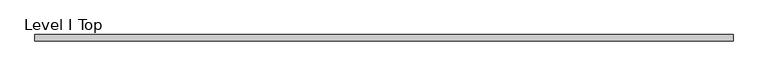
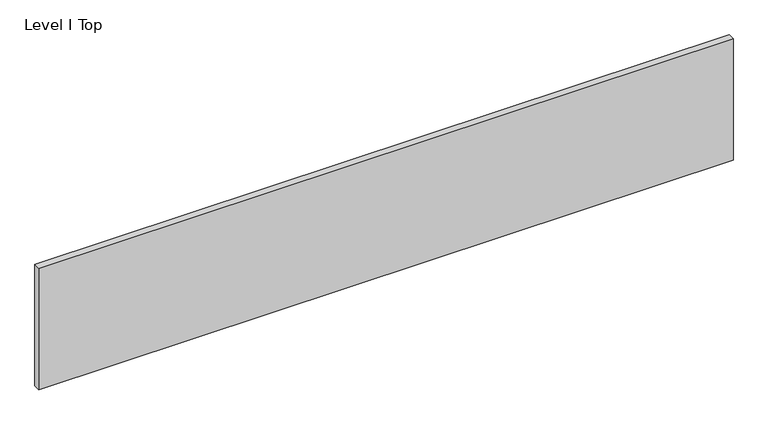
"""IFC4 building model written with IfcOpenShell, lengths in millimetres: proxy geometry, Panel-Fascia-Teknion-Altos-Landscape : Level I Top."""

import ifcopenshell
import ifcopenshell.guid

model = None  # the IFC model being written
_history = None  # IfcOwnerHistory: only IFC2X3 demands one
_inside = {}  # id of a spatial element -> (the spatial element, [elements in it])
_under = {}  # id of a project, library or spatial element -> (it, [spatial elements below it])
_declared = {}  # id of a project -> (the project, [libraries it declares])
_typed = {}  # id of a type object -> (the type object, [elements of that type])
_made_of = {}  # id of a material, layer set ... -> (it, [elements and type objects made of it])


def new_model(schema):
    """Start an empty IFC model of exactly this schema.

    Asked for "IFC4X3", IfcOpenShell would pick the latest addendum, in which some entities
    have other attributes; the version numbers below select the first issue.
    IFC2X3 requires an IfcOwnerHistory on every rooted entity: one is made here for all.
    """
    global model, _history
    if schema == "IFC4X3":
        model = ifcopenshell.file(schema_version=(4, 3, 0, 0))
    else:
        model = ifcopenshell.file(schema=schema)
    _inside.clear()
    _under.clear()
    _declared.clear()
    _typed.clear()
    _made_of.clear()
    _history = None
    if model.schema == "IFC2X3":
        org = make("IfcOrganization", Name="unknown")
        user = make(
            "IfcPersonAndOrganization",
            ThePerson=make("IfcPerson", FamilyName="unknown"),
            TheOrganization=org,
        )
        app = make(
            "IfcApplication",
            ApplicationDeveloper=org,
            Version="unknown",
            ApplicationFullName="unknown",
            ApplicationIdentifier="unknown",
        )
        _history = make(
            "IfcOwnerHistory",
            OwningUser=user,
            OwningApplication=app,
            ChangeAction="ADDED",
            CreationDate=0,
        )
    return model


def make(cls, **values):
    """One entity of the class cls with the attributes given. An attribute that is None is left unset."""
    return model.create_entity(
        cls, **{name: value for name, value in values.items() if value is not None}
    )


def rooted(cls, **values):
    """An entity with a GlobalId (a new one), such as an element, a storey or a relation."""
    return make(cls, GlobalId=ifcopenshell.guid.new(), OwnerHistory=_history, **values)


def si_unit(unit_type, name, prefix=None):
    """IfcSIUnit, for example si_unit("LENGTHUNIT", "METRE", prefix="MILLI")."""
    return make("IfcSIUnit", UnitType=unit_type, Prefix=prefix, Name=name)


def assignment(units):
    """IfcUnitAssignment: the units of a project."""
    return None if units is None else make("IfcUnitAssignment", Units=units)


def point(xyz):
    """IfcCartesianPoint."""
    return None if xyz is None else make("IfcCartesianPoint", Coordinates=xyz)


def direction(xyz):
    """IfcDirection."""
    return None if xyz is None else make("IfcDirection", DirectionRatios=xyz)


def frame(location, z_axis=None, x_axis=None):
    """IfcAxis2Placement3D, a coordinate frame: its origin and axes. An axis left out is left unset."""
    return make(
        "IfcAxis2Placement3D",
        Location=point(location),
        Axis=direction(z_axis),
        RefDirection=direction(x_axis),
    )


def origin():
    """The frame at (0, 0, 0) with its axes left unset."""
    return frame((0.0, 0.0, 0.0))


def place(relative_to, where):
    """IfcLocalPlacement: puts the frame where relative to a parent placement (None: the world)."""
    return make(
        "IfcLocalPlacement", PlacementRelTo=relative_to, RelativePlacement=where
    )


def context(
    kind, dimensions, precision=None, world=None, true_north=None, identifier=None
):
    """IfcGeometricRepresentationContext, for example the 3D "Model" context."""
    return make(
        "IfcGeometricRepresentationContext",
        ContextIdentifier=identifier,
        ContextType=kind,
        CoordinateSpaceDimension=dimensions,
        Precision=precision,
        WorldCoordinateSystem=world,
        TrueNorth=true_north,
    )


def project(units=None, contexts=None):
    """IfcProject with its units and contexts."""
    return rooted(
        "IfcProject",
        Name="project",
        RepresentationContexts=contexts,
        UnitsInContext=assignment(units),
    )


def spatial(cls, under=None, at=None, **own):
    """A site, building, storey or space (cls), placed at a placement, below another one or the project."""
    s = rooted(cls, ObjectPlacement=at, **own)
    if under is not None:
        _under.setdefault(under.id(), (under, []))[1].append(s)
    return s


def polyline(points):
    """IfcPolyline through the points."""
    return make("IfcPolyline", Points=[point(p) for p in points])


def outline(outer, holes=None, kind="AREA"):
    """IfcArbitraryClosedProfileDef: a profile drawn as a closed curve; with holes, ...WithVoids."""
    if holes is None:
        return make("IfcArbitraryClosedProfileDef", ProfileType=kind, OuterCurve=outer)
    return make(
        "IfcArbitraryProfileDefWithVoids",
        ProfileType=kind,
        OuterCurve=outer,
        InnerCurves=holes,
    )


def extrude(swept, where, along, depth):
    """IfcExtrudedAreaSolid: the profile swept, set in the frame where, extruded along a direction by depth."""
    return make(
        "IfcExtrudedAreaSolid",
        SweptArea=swept,
        Position=where,
        ExtrudedDirection=direction(along),
        Depth=depth,
    )


def shape(context_of_items, identifier, shape_type, items):
    """IfcShapeRepresentation: the items that make up one representation, for example the "Body"."""
    return make(
        "IfcShapeRepresentation",
        ContextOfItems=context_of_items,
        RepresentationIdentifier=identifier,
        RepresentationType=shape_type,
        Items=items,
    )


def source(mapping_origin, context_of_items, identifier, shape_type, items):
    """IfcRepresentationMap: a shape defined once, which mapped items show again and again."""
    return make(
        "IfcRepresentationMap",
        MappingOrigin=mapping_origin,
        MappedRepresentation=shape(context_of_items, identifier, shape_type, items),
    )


def transform(
    local_origin,
    x_axis=None,
    y_axis=None,
    z_axis=None,
    scale=None,
    scale2=None,
    scale3=None,
    uniform=True,
):
    """IfcCartesianTransformationOperator3D, or its non-uniform kind. x_axis, y_axis, z_axis: its Axis1, 2, 3."""
    if uniform:
        return make(
            "IfcCartesianTransformationOperator3D",
            Axis1=direction(x_axis),
            Axis2=direction(y_axis),
            LocalOrigin=point(local_origin),
            Scale=scale,
            Axis3=direction(z_axis),
        )
    return make(
        "IfcCartesianTransformationOperator3DnonUniform",
        Axis1=direction(x_axis),
        Axis2=direction(y_axis),
        LocalOrigin=point(local_origin),
        Scale=scale,
        Axis3=direction(z_axis),
        Scale2=scale2,
        Scale3=scale3,
    )


def mapped(mapping_source, mapping_target):
    """IfcMappedItem: shows the shape of a source again, moved by a transform."""
    return make(
        "IfcMappedItem", MappingSource=mapping_source, MappingTarget=mapping_target
    )


def made_of(thing, what):
    """Note that an element or type object is made of a material, layer set ...; save() writes the relation."""
    if what is not None:
        _made_of.setdefault(what.id(), (what, []))[1].append(thing)
    return thing


def element(
    cls,
    number,
    at=None,
    inside=None,
    cuts=None,
    type_object=None,
    material=None,
    context=None,
    identifier="Body",
    shape_type=None,
    held_by="IfcProductDefinitionShape",
    body=None,
    shapes=None,
    **own,
):
    """One element of the class cls, such as IfcWall. Its Tag is "e" and its number.

    at: its placement. inside: the storey or other place that contains it. cuts: it is an
    opening in that element (IfcRelVoidsElement). A single representation is given by context,
    identifier, shape_type and body (its items); several are given by shapes. held_by: the class
    of the entity that holds the representations. save() writes the other relations.
    """
    e = rooted(cls, Tag="e%d" % number, ObjectPlacement=at, **own)
    if body is not None:
        shapes = [shape(context, identifier, shape_type, body)]
    if shapes is not None:
        e.Representation = make(held_by, Representations=shapes)
    if inside is not None:
        _inside.setdefault(inside.id(), (inside, []))[1].append(e)
    if cuts is not None:
        rooted(
            "IfcRelVoidsElement", RelatingBuildingElement=cuts, RelatedOpeningElement=e
        )
    if type_object is not None:
        _typed.setdefault(type_object.id(), (type_object, []))[1].append(e)
    return made_of(e, material)


def aggregate(whole, parts):
    """IfcRelAggregates: a whole, such as a stair, and the parts it consists of."""
    return rooted("IfcRelAggregates", RelatingObject=whole, RelatedObjects=parts)


def save(model, path):
    """Write the relations noted so far, then the file.

    IfcRelAggregates (storeys below a building ...), IfcRelContainedInSpatialStructure (elements
    in a storey), IfcRelDefinesByType, IfcRelAssociatesMaterial and IfcRelDeclares: one each for
    every whole, place, type object, material and project.
    """
    for whole, parts in _under.values():
        aggregate(whole, parts)
    for where, things in _inside.values():
        rooted(
            "IfcRelContainedInSpatialStructure",
            RelatedElements=things,
            RelatingStructure=where,
        )
    for kind, things in _typed.values():
        rooted("IfcRelDefinesByType", RelatedObjects=things, RelatingType=kind)
    for what, things in _made_of.values():
        rooted("IfcRelAssociatesMaterial", RelatedObjects=things, RelatingMaterial=what)
    for by, libraries in _declared.values():
        rooted("IfcRelDeclares", RelatingContext=by, RelatedDefinitions=libraries)
    model.write(path)


def level_i_top_83d707e0(model_context):
    return source(origin(), model_context, "Body", "SweptSolid", [
        extrude(outline(polyline([(1012.8305563, 9.525), (1012.8305563, -9.525), (-1012.8305562, -9.525), (-1012.8305562, 9.525), (1012.8305563, 9.525)])), frame((0.0, 0.0, 3.175), z_axis=(0.0, 0.0, 1.0), x_axis=(1.0, 0.0, 0.0)), (0.0, 0.0, 1.0), 374.65),
    ])


if __name__ == "__main__":
    model = new_model("IFC4")
    model_context = context("Model", 3, world=origin())
    ifc_project = project(units=[si_unit("LENGTHUNIT", "METRE", prefix="MILLI")], contexts=[model_context])
    site = spatial("IfcSite", under=ifc_project)
    building = spatial("IfcBuilding", under=site)
    placement = place(None, origin())
    level_i_top_shape = level_i_top_83d707e0(model_context)
    element("IfcBuildingElementProxy", 1, Name="Panel-Fascia-Teknion-Altos-Landscape : Level I Top", ObjectType="Panel-Fascia-Teknion-Altos-Landscape : Level I Top", at=placement, inside=building, context=model_context, shape_type="MappedRepresentation", body=[
        mapped(level_i_top_shape, transform((0.0, 0.0, 0.0), x_axis=(1.0, 0.0, 0.0), y_axis=(0.0, 1.0, 0.0), z_axis=(0.0, 0.0, 1.0))),
    ])
    save(model, "model.ifc")
